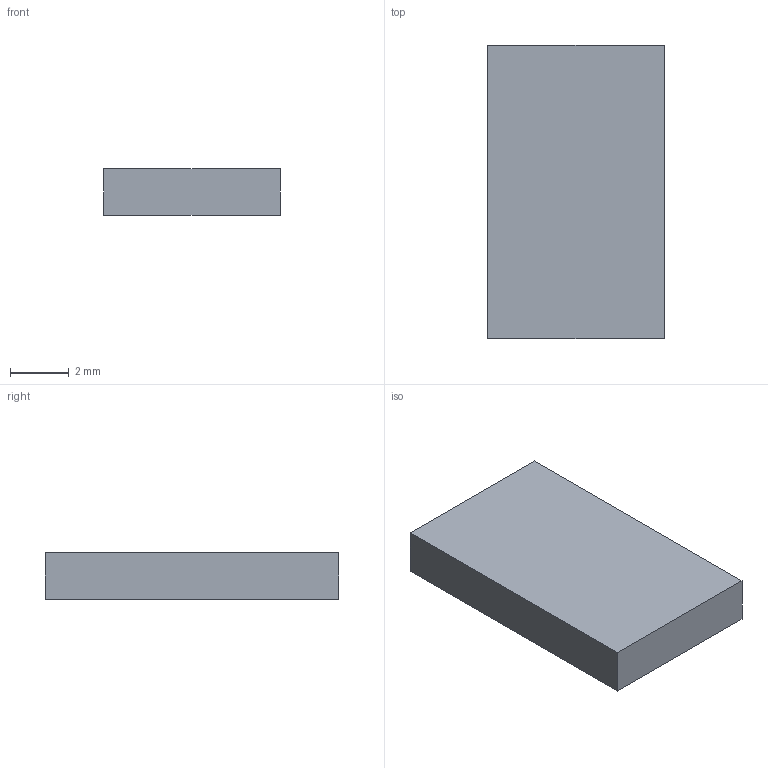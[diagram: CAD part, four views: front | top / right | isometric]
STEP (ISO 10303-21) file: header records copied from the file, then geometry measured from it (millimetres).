
FILE_DESCRIPTION(('Open CASCADE Model'),'2;1');
FILE_NAME('Open CASCADE Shape Model','2026-09-20T04:35:33',('Author'),( 'Open CASCADE'),'Open CASCADE STEP processor 8.0','Open CASCADE 8.0' ,'Unknown');
FILE_SCHEMA(('AP242_MANAGED_MODEL_BASED_3D_ENGINEERING_MIM_LF {1 0 10303 442 1 1 4 }' ));
Length unit declared in the file: millimetre
Products named in the file (1): Open CASCADE STEP translator 8.0 7
Bounding box: 6 x 10 x 1.6 mm (x, y, z)
Volume: 96 mm3; surface area: 171.2 mm2
Topology: 1 solids, 1 shells, 6 faces, 12 edges, 8 vertices
Faces by surface type: plane 6
Entity records: 322 total; most frequent: CARTESIAN_POINT 51, DIRECTION 50, LINE 36, VECTOR 36, ORIENTED_EDGE 24, PCURVE 24, DEFINITIONAL_REPRESENTATION 24, EDGE_CURVE 12
